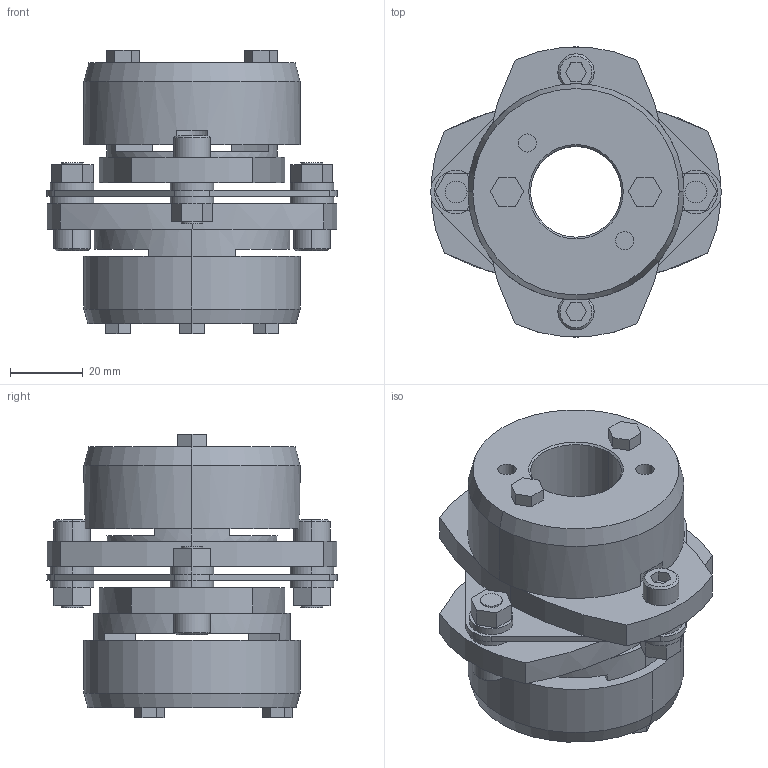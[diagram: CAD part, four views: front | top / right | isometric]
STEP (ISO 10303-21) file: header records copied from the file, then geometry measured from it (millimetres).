
FILE_DESCRIPTION((''),'2;1');
FILE_NAME('LCS-80T7-25×35.stp','2011-09-12T16:40:39',(''),(''),'AutoCAD STEP 2000i','AutoCAD 2000i',', , ');
FILE_SCHEMA(('CONFIG_CONTROL_DESIGN'));
Length unit declared in the file: millimetre
Products named in the file (14): LCS-80T7-24×35; 忣兜1; LC80T7-T035; LC80T7-T032; LC80T7-T030; LC80T7-T028; LC80T7-T024-1; LC80T7-T024; LC80T7-T022; LC80T7-T019-1; LC80T7-T019; LC80T7-T017-1; LC80T7-T017; LCS80-ITA
Assembly tree (13 placements, depth 2):
  LCS-80T7-24×35
    忣兜1
    LC80T7-T035
    LC80T7-T032
    LC80T7-T030
    LC80T7-T028
    LC80T7-T024-1
    LC80T7-T024
    LC80T7-T022
    LC80T7-T019-1
    LC80T7-T019
    LC80T7-T017-1
    LC80T7-T017
    LCS80-ITA
Bounding box: 80 x 79.95 x 78.05 mm (x, y, z)
Volume: 143148.2 mm3; surface area: 43256.4 mm2
Topology: 1 solids, 1 shells, 232 faces, 570 edges, 372 vertices
Faces by surface type: plane 130, cylinder 82, cone 20
Entity records: 7187 total; most frequent: DIRECTION 1274, CARTESIAN_POINT 1188, ORIENTED_EDGE 1140, EDGE_CURVE 570, AXIS2_PLACEMENT_3D 458, VERTEX_POINT 372, VECTOR 358, LINE 358
